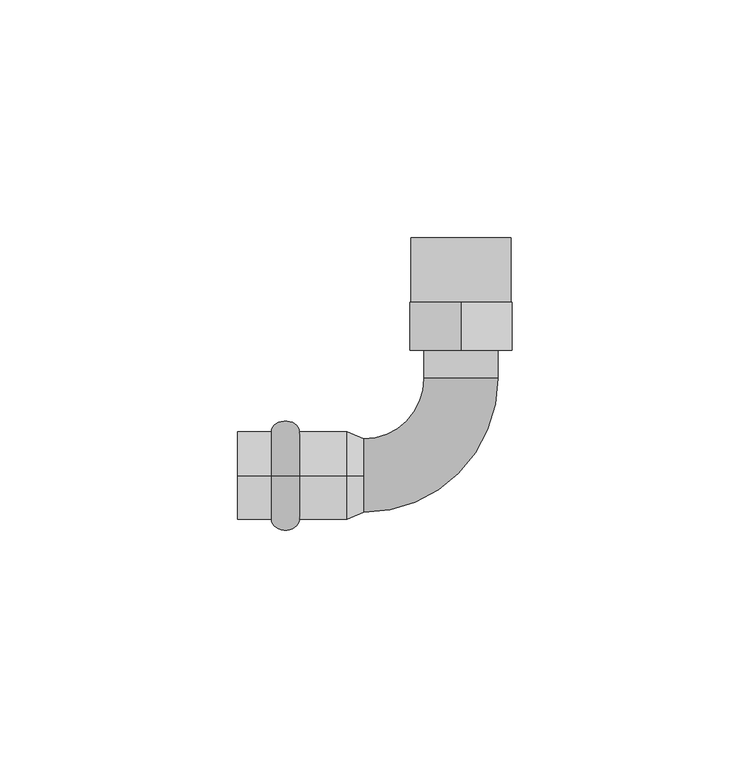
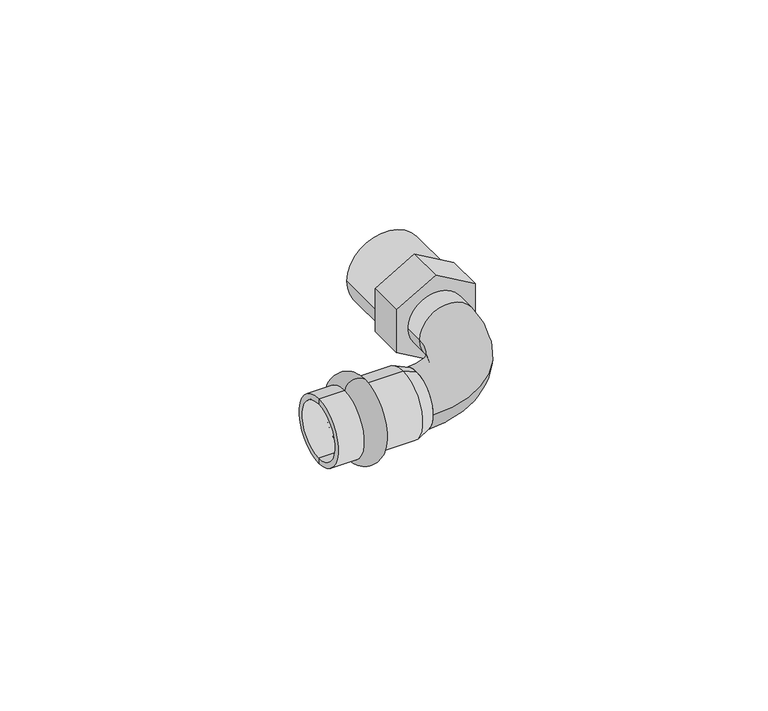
"""IFC4 building model written with IfcOpenShell, lengths in millimetres: pipe fitting geometry."""

from ifc_helpers import new_model, si_unit, point, frame, frame_2d, origin, place, context, project, spatial, polyline, circle_curve, ellipse_curve, trimmed, segment, composite_curve, outline, extrude, source, transform, mapped, element, save
from ifc_brep_helpers import plane_surface, cylinder_surface, revolved_surface, advanced_brep


def pipe_fitting_92516d4c(model_context):
    return source(origin(), model_context, "Body", "SolidModel", [
        advanced_brep(
        [(-15.9, 0.0, 9.25), (-15.9, 0.0, -9.25), (-10.0, 0.0, -9.25), (-10.0, 0.0, 9.25)],
        [
            (0, 1, circle_curve(frame((-15.9, 0.0, 0.0), z_axis=(-1.0, 0.0, 0.0), x_axis=(0.0, 0.0, -1.0)), 9.25)),
            (1, 2),
            (2, 3, circle_curve(frame((-10.0, 0.0, 0.0), z_axis=(1.0, 0.0, 0.0), x_axis=(0.0, 0.0, -1.0)), 9.25)),
            (3, 0),
            (1, 0, circle_curve(frame((-15.9, 0.0, 0.0), z_axis=(-1.0, 0.0, 0.0), x_axis=(0.0, 0.0, -1.0)), 9.25)),
            (3, 2, circle_curve(frame((-10.0, 0.0, 0.0), z_axis=(1.0, 0.0, 0.0), x_axis=(0.0, 0.0, -1.0)), 9.25)),
            (2, 1, ellipse_curve(frame((-12.95, 0.0, -9.25), z_axis=(0.0, 1.0, 0.0), x_axis=(-1.0, 0.0, 0.0)), 2.95, 2.3)),
            (0, 3, ellipse_curve(frame((-12.95, 0.0, 9.25), z_axis=(0.0, 1.0, 0.0), x_axis=(-1.0, 0.0, 0.0)), 2.95, 2.3)),
        ],
        [
            revolved_surface(polyline([(-10.0, 0.0, -9.25), (-15.899999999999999, 0.0, -9.25)]), (3.0, 0.0, 0.0), (1.0, 0.0, 0.0)),
            revolved_surface(trimmed(ellipse_curve(frame((-12.95, 0.0, -9.25), z_axis=(0.0, -1.0, 0.0), x_axis=(-1.0, 0.0, 0.0)), 2.95, 2.3), [point((-15.9, 0.0, -9.25))], [point((-10.0, 0.0, -9.25))], True, "CARTESIAN"), (3.0, 0.0, 0.0), (1.0, 0.0, 0.0)),
        ],
        [
            (0, [[1, 2, 3, 4]]),
            (0, [[5, -4, 6, -2]]),
            (1, [[-3, 7, -1, 8]]),
            (1, [[-6, -8, -5, -7]]),
        ],
    ),
        advanced_brep(
        [(3.5337785, 0.0, 7.75), (3.5337785, 0.0, -7.75), (0.0, 0.0, -9.25), (0.0, 0.0, 9.25), (-23.0, 0.0, 7.75), (-23.0, 0.0, -7.75), (-23.0, 0.0, 9.25), (-23.0, 0.0, -9.25)],
        [
            (0, 1, circle_curve(frame((3.5337785, 0.0, 0.0), z_axis=(-1.0, 0.0, 0.0), x_axis=(0.0, 0.0, -1.0)), 7.75)),
            (1, 2),
            (2, 3, circle_curve(frame((0.0, 0.0, 0.0), z_axis=(1.0, 0.0, 0.0), x_axis=(0.0, 0.0, -1.0)), 9.25)),
            (3, 0),
            (1, 0, circle_curve(frame((3.5337785, 0.0, 0.0), z_axis=(-1.0, 0.0, 0.0), x_axis=(0.0, 0.0, -1.0)), 7.75)),
            (3, 2, circle_curve(frame((0.0, 0.0, 0.0), z_axis=(1.0, 0.0, 0.0), x_axis=(0.0, 0.0, -1.0)), 9.25)),
            (4, 5, circle_curve(frame((-23.0, 0.0, 0.0), z_axis=(-1.0, 0.0, 0.0), x_axis=(0.0, 0.0, -1.0)), 7.75)),
            (5, 1),
            (0, 4),
            (5, 4, circle_curve(frame((-23.0, 0.0, 0.0), z_axis=(-1.0, 0.0, 0.0), x_axis=(0.0, 0.0, -1.0)), 7.75)),
            (6, 7, circle_curve(frame((-23.0, 0.0, 0.0), z_axis=(-1.0, 0.0, 0.0), x_axis=(0.0, 0.0, -1.0)), 9.25)),
            (7, 5),
            (4, 6),
            (7, 6, circle_curve(frame((-23.0, 0.0, 0.0), z_axis=(-1.0, 0.0, 0.0), x_axis=(0.0, 0.0, -1.0)), 9.25)),
            (2, 7),
            (6, 3),
        ],
        [
            revolved_surface(polyline([(0.0, 0.0, -9.25), (3.5337785, 0.0, -7.75)]), (3.0, 0.0, 0.0), (1.0, 0.0, 0.0)),
            revolved_surface(polyline([(3.5337785, 0.0, -7.75), (-23.0, 0.0, -7.75)]), (3.0, 0.0, 0.0), (1.0, 0.0, 0.0)),
            plane_surface(frame((-23.0, 0.0, 0.0), z_axis=(-1.0, 0.0, 0.0), x_axis=(0.0, 0.0, -1.0))),
            cylinder_surface(frame((3.0, 0.0, 0.0), z_axis=(1.0, 0.0, 0.0), x_axis=(0.0, 0.0, -1.0)), 9.25),
        ],
        [
            (0, [[1, 2, 3, 4]]),
            (0, [[5, -4, 6, -2]]),
            (1, [[7, 8, -1, 9]]),
            (1, [[10, -9, -5, -8]]),
            (2, [[11, 12, -7, 13]]),
            (2, [[14, -13, -10, -12]]),
            (3, [[-3, 15, -11, 16]]),
            (3, [[-6, -16, -14, -15]]),
        ],
    ),
        extrude(outline(polyline([(6.1776479, 34.7), (12.3552958, 24.0), (6.1776479, 13.3), (-6.1776479, 13.3), (-12.3552958, 24.0), (-6.1776479, 34.7), (6.1776479, 34.7)]), holes=[polyline([(-1.5877132, 21.25), (1.5877132, 21.25), (3.1754265, 24.0), (1.5877132, 26.75), (-1.5877132, 26.75), (-3.1754265, 24.0), (-1.5877132, 21.25)])]), frame((0.0, 26.4, 0.0), z_axis=(0.0, 1.0, 0.0), x_axis=(0.0, 0.0, 1.0)), (0.0, 0.0, 1.0), 10.0),
        extrude(outline(composite_curve([segment(trimmed(circle_curve(frame_2d((0.0, 24.0)), 10.5), [point((0.0, 13.5))], [point((0.0, 34.5))], False, "CARTESIAN"), True, "CONTINUOUS"), segment(trimmed(circle_curve(frame_2d((0.0, 24.0)), 10.5), [point((0.0, 34.5))], [point((0.0, 13.5))], False, "CARTESIAN"), True, "CONTINUOUS")], self_intersect=False)), frame((0.0, 36.4, 0.0), z_axis=(0.0, 1.0, 0.0), x_axis=(0.0, 0.0, 1.0)), (0.0, 0.0, 1.0), 13.6),
        advanced_brep(
        [(0.0, -7.75, 0.0), (0.0, 7.75, 0.0), (3.5337785, -7.75, 0.0), (3.5337785, 7.75, 0.0), (16.25, 20.4662215, 0.0), (31.75, 20.4662215, 0.0), (31.75, 26.4, 0.0), (16.25, 26.4, 0.0)],
        [
            (0, 1, circle_curve(frame((0.0, 0.0, 0.0), z_axis=(-1.0, 0.0, 0.0), x_axis=(0.0, 1.0, 0.0)), 7.75)),
            (1, 0, circle_curve(frame((0.0, 0.0, 0.0), z_axis=(-1.0, 0.0, 0.0), x_axis=(0.0, 1.0, 0.0)), 7.75)),
            (0, 2),
            (2, 3, circle_curve(frame((3.5337785, 0.0, 0.0), z_axis=(-1.0, 0.0, 0.0), x_axis=(0.0, 1.0, 0.0)), 7.75)),
            (3, 1),
            (3, 2, circle_curve(frame((3.5337785, 0.0, 0.0), z_axis=(-1.0, 0.0, 0.0), x_axis=(0.0, 1.0, 0.0)), 7.75)),
            (4, 3, circle_curve(frame((3.5337785, 20.4662215, 0.0), z_axis=(0.0, 0.0, -1.0), x_axis=(0.0, -1.0, 0.0)), 12.7162215)),
            (2, 5, circle_curve(frame((3.5337785, 20.4662215, 0.0), z_axis=(0.0, 0.0, 1.0), x_axis=(0.0, -1.0, 0.0)), 28.2162215)),
            (5, 4, circle_curve(frame((24.0, 20.4662215, 0.0), z_axis=(0.0, -1.0, 0.0), x_axis=(-1.0, 0.0, 0.0)), 7.75)),
            (4, 5, circle_curve(frame((24.0, 20.4662215, 0.0), z_axis=(0.0, -1.0, 0.0), x_axis=(-1.0, 0.0, 0.0)), 7.75)),
            (6, 7, circle_curve(frame((24.0, 26.4, 0.0), z_axis=(0.0, 1.0, 0.0), x_axis=(-1.0, 0.0, 0.0)), 7.75)),
            (7, 6, circle_curve(frame((24.0, 26.4, 0.0), z_axis=(0.0, 1.0, 0.0), x_axis=(-1.0, 0.0, 0.0)), 7.75)),
            (5, 6),
            (7, 4),
        ],
        [
            plane_surface(frame((0.0, 0.0, 0.0), z_axis=(-1.0, 0.0, 0.0), x_axis=(0.0, 0.0, 1.0))),
            cylinder_surface(frame((0.0, 0.0, 0.0), z_axis=(-1.0, 0.0, 0.0), x_axis=(0.0, 1.0, 0.0)), 7.75),
            revolved_surface(trimmed(ellipse_curve(frame((3.5337785, 0.0, 0.0), z_axis=(-1.0, 0.0, 0.0), x_axis=(0.0, 1.0, 0.0)), 7.75, 7.75), [point((3.5337785, -7.75, 0.0))], [point((3.5337785, 7.75, 0.0))], True, "CARTESIAN"), (3.5337785, 20.4662215, 0.0), (0.0, 0.0, 1.0)),
            revolved_surface(trimmed(ellipse_curve(frame((3.5337785, 0.0, 0.0), z_axis=(-1.0, 0.0, 0.0), x_axis=(0.0, 1.0, 0.0)), 7.75, 7.75), [point((3.5337785, 7.75, 0.0))], [point((3.5337785, -7.75, 0.0))], True, "CARTESIAN"), (3.5337785, 20.4662215, 0.0), (0.0, 0.0, 1.0)),
            plane_surface(frame((24.0, 26.4, 0.0), z_axis=(0.0, 1.0, 0.0), x_axis=(0.0, 0.0, 1.0))),
            cylinder_surface(frame((24.0, 20.4662215, 0.0), z_axis=(0.0, -1.0, 0.0), x_axis=(-1.0, 0.0, 0.0)), 7.75),
        ],
        [
            (0, [[1, 2]]),
            (1, [[-1, 3, 4, 5]]),
            (1, [[-2, -5, 6, -3]]),
            (2, [[7, -4, 8, 9]]),
            (3, [[-8, -6, -7, 10]]),
            (4, [[11, 12]]),
            (5, [[-9, 13, -12, 14]]),
            (5, [[-10, -14, -11, -13]]),
        ],
    ),
    ])


if __name__ == "__main__":
    model = new_model("IFC4")
    model_context = context("Model", 3, world=origin())
    ifc_project = project(units=[si_unit("LENGTHUNIT", "METRE", prefix="MILLI")], contexts=[model_context])
    site = spatial("IfcSite", under=ifc_project)
    building = spatial("IfcBuilding", under=site)
    placement = place(None, origin())
    pipe_fitting_shape = pipe_fitting_92516d4c(model_context)
    element("IfcPipeFitting", 1, ObjectType="РЕХАУ_Пресс Отвод НР : 15 x R 1/2\"", at=placement, inside=building, context=model_context, shape_type="MappedRepresentation", body=[
        mapped(pipe_fitting_shape, transform((0.0, 0.0, 0.0), x_axis=(1.0, 0.0, 0.0), y_axis=(0.0, 1.0, 0.0), z_axis=(0.0, 0.0, 1.0))),
    ])
    save(model, "model.ifc")
